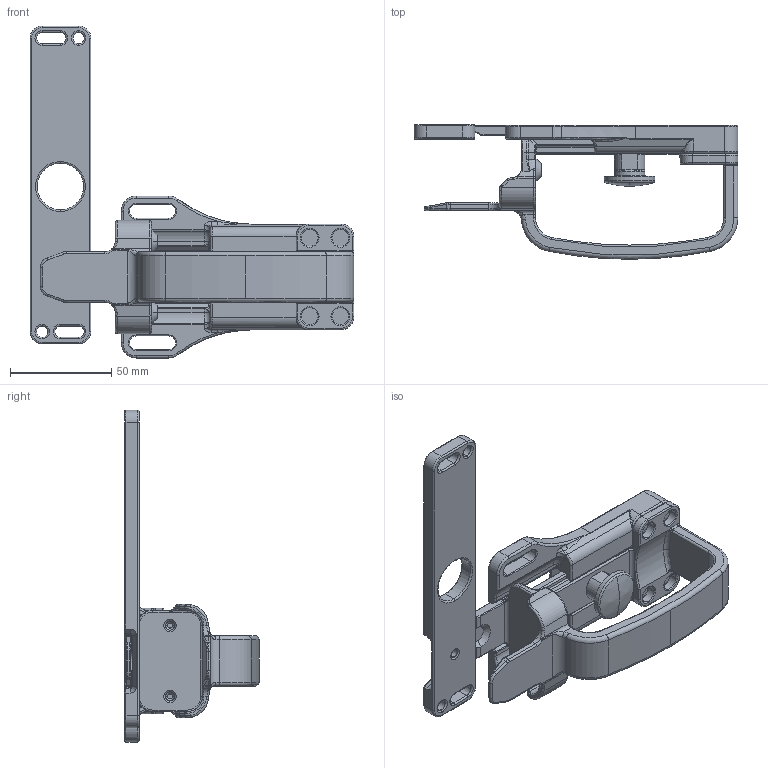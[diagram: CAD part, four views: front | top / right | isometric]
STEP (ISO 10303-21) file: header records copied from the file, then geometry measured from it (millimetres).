
FILE_DESCRIPTION (( 'STEP AP203' ), '1' );
FILE_NAME ('GB-MLZ-SFH.STEP', '2022-06-10T13:28:03', ( '' ), ( '' ), 'SwSTEP 2.0', 'SolidWorks 2021', '' );
FILE_SCHEMA (( 'CONFIG_CONTROL_DESIGN' ));
Length unit declared in the file: millimetre
Products named in the file (11): 470650 MLZ SFH Handle SS (Iss1); 470653 MLZ Latch Shaft (Iss1); 470649 MLZ SFH Bracket SS (Iss1); 470525 MLZ Spring Catch (RevA); 470652 MLZ Latch Bush (Iss1); 470657 M8 x 10mm Slotted Head Flat Point Grub Screw (A2 SS); 470651 MLZ SFH Base SS (Iss1); 141563 Reset Button RS (Iss3); 801573 2 x 8mm Heavy Duty Coiled Pin SS (Iss1); GB-MLZ-SFH; 470654 MLZ Latch Spring (Iss1)
Assembly tree (10 placements, depth 3):
  GB-MLZ-SFH
    470649 MLZ SFH Bracket SS (Iss1)
    470651 MLZ SFH Base SS (Iss1)
    470650 MLZ SFH Handle SS (Iss1)
    470525 MLZ Spring Catch (RevA)
      470652 MLZ Latch Bush (Iss1)
      141563 Reset Button RS (Iss3)
      470653 MLZ Latch Shaft (Iss1)
      801573 2 x 8mm Heavy Duty Coiled Pin SS (Iss1)
      470654 MLZ Latch Spring (Iss1)
    470657 M8 x 10mm Slotted Head Flat Point Grub Screw (A2 SS)
Bounding box: 160 x 66.25 x 164 mm (x, y, z)
Volume: 124249.1 mm3; surface area: 66413.2 mm2
Topology: 9 solids, 9 shells, 1401 faces, 3266 edges, 1806 vertices
Faces by surface type: cylinder 558, torus 334, plane 231, bspline 142, sphere 75, cone 61
Entity records: 45912 total; most frequent: CARTESIAN_POINT 13883, DIRECTION 6903, ORIENTED_EDGE 6356, EDGE_CURVE 3178, AXIS2_PLACEMENT_3D 2892, VERTEX_POINT 1806, CIRCLE 1619, EDGE_LOOP 1456
